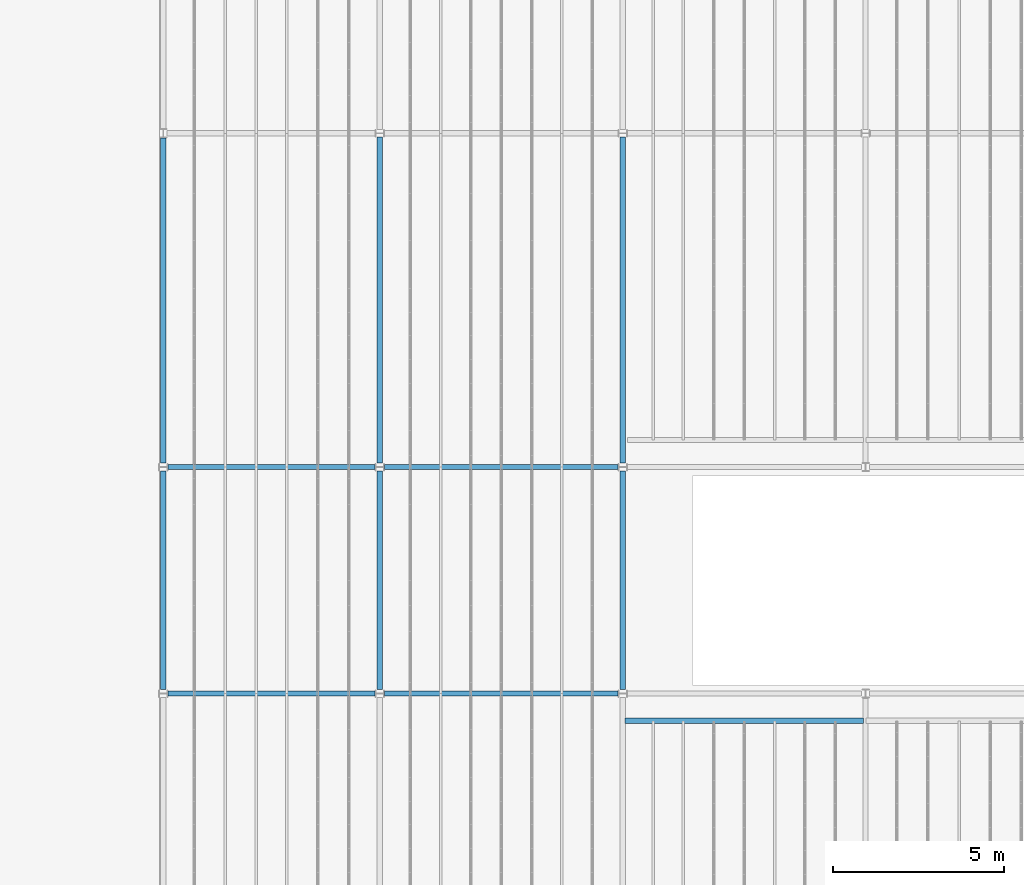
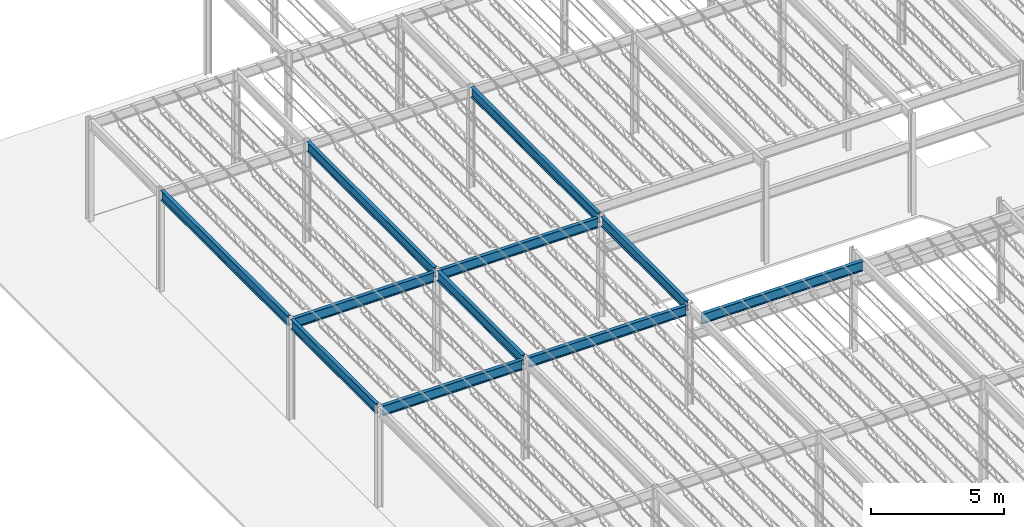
# One storey, part 10 of 119: 11 beams.
"""IFC2X3 building model written with IfcOpenShell, lengths in metres."""

from ifc_helpers import new_model, entity, si_unit, converted_unit, frame, frame_2d, origin, place, context, project, spatial, polyline, circle_curve, parameter, trimmed, segment, composite_curve, outline, extrude, material, element, save


model = new_model("IFC2X3")

# Units and contexts
model_context = context("Model", 3, precision=1e-09, world=origin())
plan_context = context("Plan", 3, precision=1e-09, world=origin())
ifc_project = project(units=[si_unit("LENGTHUNIT", "METRE"), si_unit("AREAUNIT", "SQUARE_METRE"), si_unit("VOLUMEUNIT", "CUBIC_METRE"), converted_unit("PLANEANGLEUNIT", "DEGREE", entity("IfcRatioMeasure", 0.01745329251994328), si_unit("PLANEANGLEUNIT", "RADIAN"), dimensions=[0, 0, 0, 0, 0, 0, 0]), si_unit("TIMEUNIT", "SECOND")], contexts=[model_context, plan_context])

# Site, building, storey
site_placement = place(None, origin())
site = spatial("IfcSite", under=ifc_project, at=site_placement, Name="Default", CompositionType="ELEMENT")
building_placement = place(site_placement, origin())
building = spatial("IfcBuilding", under=site, at=building_placement, CompositionType="ELEMENT")
storey_placement = place(building_placement, frame((0.0, 0.0, 4.570000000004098)))
storey = spatial("IfcBuildingStorey", under=building, at=storey_placement, Name="Second Floor", CompositionType="ELEMENT", Elevation=4.570000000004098)

# Beams
ifc_material = material(Name="Metal - Steel - 345 MPa")
beam_1_placement = place(storey_placement, frame((-33.5526575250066, 35.01000000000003, 4.61649999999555), z_axis=(0.0, 0.0, 1.0), x_axis=(0.0, 1.0, 0.0)))
element("IfcBeam", 1, at=beam_1_placement, inside=storey, material=ifc_material, Name="M_W-Wide Flange:W460X60:W460X60", ObjectType="M_W-Wide Flange:W460X60", context=model_context, shape_type="SweptSolid", body=[
    extrude(outline(composite_curve([segment(polyline([(0.2142000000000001, -0.07650000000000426), (0.2275000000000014, -0.07650000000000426)]), True, "CONTINUOUS"), segment(polyline([(0.2275000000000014, -0.07650000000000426), (0.2275000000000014, 0.0764999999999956)]), True, "CONTINUOUS"), segment(polyline([(0.2275000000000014, 0.0764999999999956), (0.2142000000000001, 0.0764999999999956)]), True, "CONTINUOUS"), segment(polyline([(0.2142000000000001, 0.0764999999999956), (0.2142000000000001, 0.02169999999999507)]), True, "CONTINUOUS"), segment(trimmed(circle_curve(frame_2d((0.1965000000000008, 0.02169999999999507), x_axis=(1.0, 0.0)), 0.0177), [parameter(269.9999999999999)], [parameter(359.9999999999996)], True, "PARAMETER"), False, "CONTINUOUS"), segment(polyline([(0.1965000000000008, 0.00399999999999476), (-0.1964999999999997, 0.00399999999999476)]), True, "CONTINUOUS"), segment(trimmed(circle_curve(frame_2d((-0.1964999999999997, 0.02169999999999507), x_axis=(0.0, -1.0)), 0.0177), [parameter(269.9999999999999)], [parameter(359.9999999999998)], True, "PARAMETER"), False, "CONTINUOUS"), segment(polyline([(-0.2142, 0.02169999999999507), (-0.2142, 0.0764999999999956)]), True, "CONTINUOUS"), segment(polyline([(-0.2142, 0.0764999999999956), (-0.2274999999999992, 0.0764999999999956)]), True, "CONTINUOUS"), segment(polyline([(-0.2274999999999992, 0.0764999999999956), (-0.2274999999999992, -0.07650000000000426)]), True, "CONTINUOUS"), segment(polyline([(-0.2274999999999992, -0.07650000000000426), (-0.2142, -0.07650000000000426)]), True, "CONTINUOUS"), segment(polyline([(-0.2142, -0.07650000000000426), (-0.2142, -0.02170000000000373)]), True, "CONTINUOUS"), segment(trimmed(circle_curve(frame_2d((-0.1964999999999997, -0.02170000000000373), x_axis=(-1.0, 0.0)), 0.0177), [parameter(269.9999999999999)], [parameter(359.9999999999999)], True, "PARAMETER"), False, "CONTINUOUS"), segment(polyline([(-0.1964999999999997, -0.004000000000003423), (0.1965000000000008, -0.004000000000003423)]), True, "CONTINUOUS"), segment(trimmed(circle_curve(frame_2d((0.1965000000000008, -0.02170000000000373), x_axis=(0.0, 1.0)), 0.0177), [parameter(269.9999999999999)], [parameter(5.088887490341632e-14)], True, "PARAMETER"), False, "CONTINUOUS"), segment(polyline([(0.2142000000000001, -0.02170000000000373), (0.2142000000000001, -0.07650000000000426)]), True, "CONTINUOUS")], self_intersect=False)), frame((0.0, 6.966142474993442, -0.2275000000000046), z_axis=(0.0, -1.0, 0.0), x_axis=(0.0, 0.0, -1.0)), (0.0, 0.0, 1.0), 6.827600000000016),
])
beam_2_placement = place(storey_placement, frame((-40.66298019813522, 35.01000000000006, 4.61649999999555), z_axis=(0.0, 0.0, 1.0), x_axis=(0.0, 1.0, 0.0)))
element("IfcBeam", 2, at=beam_2_placement, inside=storey, material=ifc_material, Name="M_W-Wide Flange:W460X60:W460X60", ObjectType="M_W-Wide Flange:W460X60", context=model_context, shape_type="SweptSolid", body=[
    extrude(outline(composite_curve([segment(polyline([(0.2142000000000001, -0.07649999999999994), (0.2275000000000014, -0.07649999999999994)]), True, "CONTINUOUS"), segment(polyline([(0.2275000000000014, -0.07649999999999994), (0.2275000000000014, 0.07649999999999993)]), True, "CONTINUOUS"), segment(polyline([(0.2275000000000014, 0.07649999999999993), (0.2142000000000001, 0.07649999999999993)]), True, "CONTINUOUS"), segment(polyline([(0.2142000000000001, 0.07649999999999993), (0.2142000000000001, 0.0216999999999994)]), True, "CONTINUOUS"), segment(trimmed(circle_curve(frame_2d((0.1965000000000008, 0.0216999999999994), x_axis=(0.0, 1.0)), 0.0177), [parameter(180.0)], [parameter(269.9999999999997)], True, "PARAMETER"), False, "CONTINUOUS"), segment(polyline([(0.1965000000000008, 0.003999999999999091), (-0.1964999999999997, 0.003999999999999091)]), True, "CONTINUOUS"), segment(trimmed(circle_curve(frame_2d((-0.1964999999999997, 0.0216999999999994), x_axis=(0.0, 1.0)), 0.0177), [parameter(90.00000000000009)], [parameter(179.9999999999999)], True, "PARAMETER"), False, "CONTINUOUS"), segment(polyline([(-0.2142, 0.0216999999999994), (-0.2142, 0.07649999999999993)]), True, "CONTINUOUS"), segment(polyline([(-0.2142, 0.07649999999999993), (-0.2274999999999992, 0.07649999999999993)]), True, "CONTINUOUS"), segment(polyline([(-0.2274999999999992, 0.07649999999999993), (-0.2274999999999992, -0.07649999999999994)]), True, "CONTINUOUS"), segment(polyline([(-0.2274999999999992, -0.07649999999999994), (-0.2142, -0.07649999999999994)]), True, "CONTINUOUS"), segment(polyline([(-0.2142, -0.07649999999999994), (-0.2142, -0.0216999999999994)]), True, "CONTINUOUS"), segment(trimmed(circle_curve(frame_2d((-0.1964999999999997, -0.0216999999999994), x_axis=(0.0, 1.0)), 0.0177), [parameter(359.9999999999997)], [parameter(89.99999999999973)], True, "PARAMETER"), False, "CONTINUOUS"), segment(polyline([(-0.1964999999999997, -0.00399999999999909), (0.1965000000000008, -0.00399999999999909)]), True, "CONTINUOUS"), segment(trimmed(circle_curve(frame_2d((0.1965000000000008, -0.0216999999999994), x_axis=(0.0, 1.0)), 0.0177), [parameter(269.9999999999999)], [parameter(0.0)], True, "PARAMETER"), False, "CONTINUOUS"), segment(polyline([(0.2142000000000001, -0.0216999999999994), (0.2142000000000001, -0.07649999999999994)]), True, "CONTINUOUS")], self_intersect=False)), frame((0.0, 6.195819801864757, -0.2275000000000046), z_axis=(0.0, -1.0, 0.0), x_axis=(0.0, 0.0, -1.0)), (0.0, 0.0, 1.0), 6.05759999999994),
])
beam_3_placement = place(storey_placement, frame((-40.66000000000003, 28.38284987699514, 4.679999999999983)))
element("IfcBeam", 3, at=beam_3_placement, inside=storey, material=ifc_material, Name="M_W-Wide Flange:W460X60:W460X60", ObjectType="M_W-Wide Flange:W460X60", context=model_context, shape_type="SweptSolid", body=[
    extrude(outline(composite_curve([segment(polyline([(-0.07649999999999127, -0.214199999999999), (-0.07649999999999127, -0.2275000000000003)]), True, "CONTINUOUS"), segment(polyline([(-0.07649999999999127, -0.2275000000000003), (0.0765000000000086, -0.2275000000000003)]), True, "CONTINUOUS"), segment(polyline([(0.0765000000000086, -0.2275000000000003), (0.0765000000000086, -0.214199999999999)]), True, "CONTINUOUS"), segment(polyline([(0.0765000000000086, -0.214199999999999), (0.02170000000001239, -0.214199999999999)]), True, "CONTINUOUS"), segment(trimmed(circle_curve(frame_2d((0.02170000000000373, -0.1964999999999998), x_axis=(0.0, -1.0)), 0.0177), [parameter(269.9999999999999)], [parameter(359.9999999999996)], True, "PARAMETER"), False, "CONTINUOUS"), segment(polyline([(0.004000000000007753, -0.1964999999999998), (0.004000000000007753, 0.1965000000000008)]), True, "CONTINUOUS"), segment(trimmed(circle_curve(frame_2d((0.02170000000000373, 0.1965000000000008), x_axis=(-1.0, 0.0)), 0.0177), [parameter(269.9999999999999)], [parameter(359.9999999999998)], True, "PARAMETER"), False, "CONTINUOUS"), segment(polyline([(0.02170000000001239, 0.2142000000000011), (0.0765000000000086, 0.2142000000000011)]), True, "CONTINUOUS"), segment(polyline([(0.0765000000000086, 0.2142000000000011), (0.0765000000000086, 0.2275000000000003)]), True, "CONTINUOUS"), segment(polyline([(0.0765000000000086, 0.2275000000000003), (-0.07649999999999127, 0.2275000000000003)]), True, "CONTINUOUS"), segment(polyline([(-0.07649999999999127, 0.2275000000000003), (-0.07649999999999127, 0.2142000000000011)]), True, "CONTINUOUS"), segment(polyline([(-0.07649999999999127, 0.2142000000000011), (-0.02169999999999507, 0.2142000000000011)]), True, "CONTINUOUS"), segment(trimmed(circle_curve(frame_2d((-0.02169999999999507, 0.1965000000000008), x_axis=(0.0, 1.0)), 0.0177), [parameter(269.9999999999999)], [parameter(359.9999999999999)], True, "PARAMETER"), False, "CONTINUOUS"), segment(polyline([(-0.003999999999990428, 0.1965000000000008), (-0.003999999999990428, -0.1964999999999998)]), True, "CONTINUOUS"), segment(trimmed(circle_curve(frame_2d((-0.02169999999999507, -0.1964999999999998), x_axis=(1.0, 0.0)), 0.0177), [parameter(269.9999999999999)], [parameter(5.088887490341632e-14)], True, "PARAMETER"), False, "CONTINUOUS"), segment(polyline([(-0.02169999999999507, -0.214199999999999), (-0.07649999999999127, -0.214199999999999)]), True, "CONTINUOUS")], self_intersect=False)), frame((0.0, 0.1118501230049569, -0.2275000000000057), z_axis=(0.0, -1.0, 0.0), x_axis=(1.0, 0.0, 0.0)), (0.0, 0.0, -1.0), 6.400599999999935),
])
beam_4_placement = place(storey_placement, frame((-40.65734247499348, 28.3800000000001, 4.61649999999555), z_axis=(0.0, 0.0, 1.0), x_axis=(0.0, -1.0, 0.0)))
element("IfcBeam", 4, at=beam_4_placement, inside=storey, material=ifc_material, Name="M_W-Wide Flange:W460X60:W460X60", ObjectType="M_W-Wide Flange:W460X60", context=model_context, shape_type="SweptSolid", body=[
    extrude(outline(composite_curve([segment(polyline([(-0.07649999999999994, -0.2142000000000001), (-0.07649999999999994, -0.2275000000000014)]), True, "CONTINUOUS"), segment(polyline([(-0.07649999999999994, -0.2275000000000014), (0.07649999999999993, -0.2275000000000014)]), True, "CONTINUOUS"), segment(polyline([(0.07649999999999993, -0.2275000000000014), (0.07649999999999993, -0.2142000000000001)]), True, "CONTINUOUS"), segment(polyline([(0.07649999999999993, -0.2142000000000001), (0.0216999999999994, -0.2142000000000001)]), True, "CONTINUOUS"), segment(trimmed(circle_curve(frame_2d((0.02169999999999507, -0.1965000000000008), x_axis=(0.0, -1.0)), 0.0177), [parameter(269.9999999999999)], [parameter(359.9999999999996)], True, "PARAMETER"), False, "CONTINUOUS"), segment(polyline([(0.003999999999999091, -0.1965000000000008), (0.003999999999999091, 0.1964999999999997)]), True, "CONTINUOUS"), segment(trimmed(circle_curve(frame_2d((0.02169999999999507, 0.1964999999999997), x_axis=(-1.0, 0.0)), 0.0177), [parameter(269.9999999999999)], [parameter(359.9999999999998)], True, "PARAMETER"), False, "CONTINUOUS"), segment(polyline([(0.0216999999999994, 0.2142), (0.07649999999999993, 0.2142)]), True, "CONTINUOUS"), segment(polyline([(0.07649999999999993, 0.2142), (0.07649999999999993, 0.2274999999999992)]), True, "CONTINUOUS"), segment(polyline([(0.07649999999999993, 0.2274999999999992), (-0.07649999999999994, 0.2274999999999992)]), True, "CONTINUOUS"), segment(polyline([(-0.07649999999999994, 0.2274999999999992), (-0.07649999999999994, 0.2142)]), True, "CONTINUOUS"), segment(polyline([(-0.07649999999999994, 0.2142), (-0.0216999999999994, 0.2142)]), True, "CONTINUOUS"), segment(trimmed(circle_curve(frame_2d((-0.02170000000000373, 0.1964999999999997), x_axis=(0.0, 1.0)), 0.0177), [parameter(269.9999999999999)], [parameter(359.9999999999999)], True, "PARAMETER"), False, "CONTINUOUS"), segment(polyline([(-0.00399999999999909, 0.1964999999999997), (-0.00399999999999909, -0.1965000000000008)]), True, "CONTINUOUS"), segment(trimmed(circle_curve(frame_2d((-0.02170000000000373, -0.1965000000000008), x_axis=(1.0, 0.0)), 0.0177), [parameter(269.9999999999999)], [parameter(5.088887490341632e-14)], True, "PARAMETER"), False, "CONTINUOUS"), segment(polyline([(-0.0216999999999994, -0.2142000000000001), (-0.07649999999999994, -0.2142000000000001)]), True, "CONTINUOUS")], self_intersect=False)), frame((0.0, 0.138542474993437, -0.2275000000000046), z_axis=(0.0, -1.0, 0.0), x_axis=(1.0, 0.0, 0.0)), (0.0, 0.0, -1.0), 6.827600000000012),
])
beam_5_placement = place(storey_placement, frame((-46.99701980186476, 28.38000000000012, 4.61649999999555), z_axis=(0.0, 0.0, 1.0), x_axis=(0.0, -1.0, 0.0)))
element("IfcBeam", 5, at=beam_5_placement, inside=storey, material=ifc_material, Name="M_W-Wide Flange:W460X60:W460X60", ObjectType="M_W-Wide Flange:W460X60", context=model_context, shape_type="SweptSolid", body=[
    extrude(outline(composite_curve([segment(polyline([(-0.07649999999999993, -0.2142000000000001), (-0.07649999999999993, -0.2275000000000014)]), True, "CONTINUOUS"), segment(polyline([(-0.07649999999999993, -0.2275000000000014), (0.07649999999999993, -0.2275000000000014)]), True, "CONTINUOUS"), segment(polyline([(0.07649999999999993, -0.2275000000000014), (0.07649999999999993, -0.2142000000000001)]), True, "CONTINUOUS"), segment(polyline([(0.07649999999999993, -0.2142000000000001), (0.0216999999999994, -0.2142000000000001)]), True, "CONTINUOUS"), segment(trimmed(circle_curve(frame_2d((0.02169999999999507, -0.1965000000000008), x_axis=(1.0, 0.0)), 0.0177), [parameter(180.0)], [parameter(269.9999999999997)], True, "PARAMETER"), False, "CONTINUOUS"), segment(polyline([(0.003999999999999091, -0.1965000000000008), (0.003999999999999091, 0.1964999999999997)]), True, "CONTINUOUS"), segment(trimmed(circle_curve(frame_2d((0.02169999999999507, 0.1964999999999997), x_axis=(1.0, 0.0)), 0.0177), [parameter(90.00000000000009)], [parameter(179.9999999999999)], True, "PARAMETER"), False, "CONTINUOUS"), segment(polyline([(0.0216999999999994, 0.2142), (0.07649999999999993, 0.2142)]), True, "CONTINUOUS"), segment(polyline([(0.07649999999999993, 0.2142), (0.07649999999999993, 0.2274999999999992)]), True, "CONTINUOUS"), segment(polyline([(0.07649999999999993, 0.2274999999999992), (-0.07649999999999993, 0.2274999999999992)]), True, "CONTINUOUS"), segment(polyline([(-0.07649999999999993, 0.2274999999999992), (-0.07649999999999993, 0.2142)]), True, "CONTINUOUS"), segment(polyline([(-0.07649999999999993, 0.2142), (-0.0216999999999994, 0.2142)]), True, "CONTINUOUS"), segment(trimmed(circle_curve(frame_2d((-0.02170000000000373, 0.1964999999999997), x_axis=(1.0, 0.0)), 0.0177), [parameter(359.9999999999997)], [parameter(89.99999999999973)], True, "PARAMETER"), False, "CONTINUOUS"), segment(polyline([(-0.003999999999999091, 0.1964999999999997), (-0.003999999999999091, -0.1965000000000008)]), True, "CONTINUOUS"), segment(trimmed(circle_curve(frame_2d((-0.02170000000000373, -0.1965000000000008), x_axis=(1.0, 0.0)), 0.0177), [parameter(269.9999999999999)], [parameter(0.0)], True, "PARAMETER"), False, "CONTINUOUS"), segment(polyline([(-0.0216999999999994, -0.2142000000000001), (-0.07649999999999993, -0.2142000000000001)]), True, "CONTINUOUS")], self_intersect=False)), frame((0.0, 0.138219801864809, -0.2275000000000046), z_axis=(0.0, -1.0, 0.0), x_axis=(1.0, 0.0, 0.0)), (0.0, 0.0, -1.0), 6.05759999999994),
])
beam_6_placement = place(storey_placement, frame((-33.55000000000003, 35.00715012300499, 4.679999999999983), z_axis=(0.0, 0.0, 1.0), x_axis=(-1.0, 0.0, 0.0)))
element("IfcBeam", 6, at=beam_6_placement, inside=storey, material=ifc_material, Name="M_W-Wide Flange:W460X60:W460X60", ObjectType="M_W-Wide Flange:W460X60", context=model_context, shape_type="SweptSolid", body=[
    extrude(outline(composite_curve([segment(polyline([(0.2142000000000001, -0.07650000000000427), (0.2275000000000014, -0.07650000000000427)]), True, "CONTINUOUS"), segment(polyline([(0.2275000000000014, -0.07650000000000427), (0.2275000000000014, 0.0764999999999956)]), True, "CONTINUOUS"), segment(polyline([(0.2275000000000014, 0.0764999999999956), (0.2142000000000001, 0.0764999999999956)]), True, "CONTINUOUS"), segment(polyline([(0.2142000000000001, 0.0764999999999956), (0.2142000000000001, 0.02169999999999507)]), True, "CONTINUOUS"), segment(trimmed(circle_curve(frame_2d((0.1965000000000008, 0.02169999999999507), x_axis=(1.0, 0.0)), 0.0177), [parameter(269.9999999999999)], [parameter(359.9999999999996)], True, "PARAMETER"), False, "CONTINUOUS"), segment(polyline([(0.1965000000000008, 0.00399999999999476), (-0.1964999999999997, 0.00399999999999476)]), True, "CONTINUOUS"), segment(trimmed(circle_curve(frame_2d((-0.1964999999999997, 0.02169999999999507), x_axis=(0.0, -1.0)), 0.0177), [parameter(269.9999999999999)], [parameter(359.9999999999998)], True, "PARAMETER"), False, "CONTINUOUS"), segment(polyline([(-0.2142, 0.02169999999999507), (-0.2142, 0.0764999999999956)]), True, "CONTINUOUS"), segment(polyline([(-0.2142, 0.0764999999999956), (-0.2274999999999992, 0.0764999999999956)]), True, "CONTINUOUS"), segment(polyline([(-0.2274999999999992, 0.0764999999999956), (-0.2274999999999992, -0.07650000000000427)]), True, "CONTINUOUS"), segment(polyline([(-0.2274999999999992, -0.07650000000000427), (-0.2142, -0.07650000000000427)]), True, "CONTINUOUS"), segment(polyline([(-0.2142, -0.07650000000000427), (-0.2142, -0.02170000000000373)]), True, "CONTINUOUS"), segment(trimmed(circle_curve(frame_2d((-0.1964999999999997, -0.02170000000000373), x_axis=(-1.0, 0.0)), 0.0177), [parameter(269.9999999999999)], [parameter(359.9999999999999)], True, "PARAMETER"), False, "CONTINUOUS"), segment(polyline([(-0.1964999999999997, -0.004000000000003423), (0.1965000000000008, -0.004000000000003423)]), True, "CONTINUOUS"), segment(trimmed(circle_curve(frame_2d((0.1965000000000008, -0.02170000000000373), x_axis=(0.0, 1.0)), 0.0177), [parameter(269.9999999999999)], [parameter(5.088887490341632e-14)], True, "PARAMETER"), False, "CONTINUOUS"), segment(polyline([(0.2142000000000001, -0.02170000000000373), (0.2142000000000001, -0.07650000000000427)]), True, "CONTINUOUS")], self_intersect=False)), frame((0.0, 6.512450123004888, -0.2275000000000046), z_axis=(0.0, -1.0, 0.0), x_axis=(0.0, 0.0, -1.0)), (0.0, 0.0, 1.0), 6.400599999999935),
])
beam_7_placement = place(storey_placement, frame((-33.55, 44.77806591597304, 4.679999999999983), z_axis=(0.0, 0.0, 1.0), x_axis=(-1.0, 0.0, 0.0)))
element("IfcBeam", 7, at=beam_7_placement, inside=storey, material=ifc_material, Name="M_W-Wide Flange:W460X60:W460X60", ObjectType="M_W-Wide Flange:W460X60", context=model_context, shape_type="SweptSolid", body=[
    extrude(outline(composite_curve([segment(polyline([(0.2142000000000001, -0.07649999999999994), (0.2275000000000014, -0.07649999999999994)]), True, "CONTINUOUS"), segment(polyline([(0.2275000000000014, -0.07649999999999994), (0.2275000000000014, 0.07649999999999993)]), True, "CONTINUOUS"), segment(polyline([(0.2275000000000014, 0.07649999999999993), (0.2142000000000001, 0.07649999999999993)]), True, "CONTINUOUS"), segment(polyline([(0.2142000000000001, 0.07649999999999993), (0.2142000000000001, 0.0216999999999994)]), True, "CONTINUOUS"), segment(trimmed(circle_curve(frame_2d((0.1965000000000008, 0.0216999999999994), x_axis=(1.0, 0.0)), 0.0177), [parameter(269.9999999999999)], [parameter(359.9999999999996)], True, "PARAMETER"), False, "CONTINUOUS"), segment(polyline([(0.1965000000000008, 0.00399999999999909), (-0.1964999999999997, 0.00399999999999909)]), True, "CONTINUOUS"), segment(trimmed(circle_curve(frame_2d((-0.1964999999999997, 0.0216999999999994), x_axis=(0.0, -1.0)), 0.0177), [parameter(269.9999999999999)], [parameter(359.9999999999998)], True, "PARAMETER"), False, "CONTINUOUS"), segment(polyline([(-0.2142, 0.0216999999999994), (-0.2142, 0.07649999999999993)]), True, "CONTINUOUS"), segment(polyline([(-0.2142, 0.07649999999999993), (-0.2274999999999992, 0.07649999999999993)]), True, "CONTINUOUS"), segment(polyline([(-0.2274999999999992, 0.07649999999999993), (-0.2274999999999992, -0.07649999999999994)]), True, "CONTINUOUS"), segment(polyline([(-0.2274999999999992, -0.07649999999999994), (-0.2142, -0.07649999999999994)]), True, "CONTINUOUS"), segment(polyline([(-0.2142, -0.07649999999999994), (-0.2142, -0.0216999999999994)]), True, "CONTINUOUS"), segment(trimmed(circle_curve(frame_2d((-0.1964999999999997, -0.0216999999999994), x_axis=(-1.0, 0.0)), 0.0177), [parameter(269.9999999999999)], [parameter(359.9999999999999)], True, "PARAMETER"), False, "CONTINUOUS"), segment(polyline([(-0.1964999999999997, -0.003999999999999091), (0.1965000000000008, -0.003999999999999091)]), True, "CONTINUOUS"), segment(trimmed(circle_curve(frame_2d((0.1965000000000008, -0.0216999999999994), x_axis=(0.0, 1.0)), 0.0177), [parameter(269.9999999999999)], [parameter(5.088887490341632e-14)], True, "PARAMETER"), False, "CONTINUOUS"), segment(polyline([(0.2142000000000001, -0.0216999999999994), (0.2142000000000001, -0.07649999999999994)]), True, "CONTINUOUS")], self_intersect=False)), frame((0.0, 9.653365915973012, -0.2275000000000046), z_axis=(0.0, -1.0, 0.0), x_axis=(0.0, 0.0, -1.0)), (0.0, 0.0, 1.0), 9.540600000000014),
])
beam_8_placement = place(storey_placement, frame((-47.0, 44.77806591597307, 4.679999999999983), z_axis=(0.0, 0.0, 1.0), x_axis=(-1.0, 0.0, 0.0)))
element("IfcBeam", 8, at=beam_8_placement, inside=storey, material=ifc_material, Name="M_W-Wide Flange:W460X60:W460X60", ObjectType="M_W-Wide Flange:W460X60", context=model_context, shape_type="SweptSolid", body=[
    extrude(outline(composite_curve([segment(polyline([(0.2142000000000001, -0.07649999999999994), (0.2275000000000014, -0.07649999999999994)]), True, "CONTINUOUS"), segment(polyline([(0.2275000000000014, -0.07649999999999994), (0.2275000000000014, 0.07649999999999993)]), True, "CONTINUOUS"), segment(polyline([(0.2275000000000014, 0.07649999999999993), (0.2142000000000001, 0.07649999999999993)]), True, "CONTINUOUS"), segment(polyline([(0.2142000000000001, 0.07649999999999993), (0.2142000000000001, 0.02170000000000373)]), True, "CONTINUOUS"), segment(trimmed(circle_curve(frame_2d((0.1965000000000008, 0.02170000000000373), x_axis=(1.0, 0.0)), 0.0177), [parameter(269.9999999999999)], [parameter(359.9999999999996)], True, "PARAMETER"), False, "CONTINUOUS"), segment(polyline([(0.1965000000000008, 0.00399999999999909), (-0.1964999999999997, 0.00399999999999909)]), True, "CONTINUOUS"), segment(trimmed(circle_curve(frame_2d((-0.1964999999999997, 0.02170000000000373), x_axis=(0.0, -1.0)), 0.0177), [parameter(269.9999999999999)], [parameter(359.9999999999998)], True, "PARAMETER"), False, "CONTINUOUS"), segment(polyline([(-0.2142, 0.02170000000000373), (-0.2142, 0.07649999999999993)]), True, "CONTINUOUS"), segment(polyline([(-0.2142, 0.07649999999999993), (-0.2274999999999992, 0.07649999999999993)]), True, "CONTINUOUS"), segment(polyline([(-0.2274999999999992, 0.07649999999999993), (-0.2274999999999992, -0.07649999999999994)]), True, "CONTINUOUS"), segment(polyline([(-0.2274999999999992, -0.07649999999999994), (-0.2142, -0.07649999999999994)]), True, "CONTINUOUS"), segment(polyline([(-0.2142, -0.07649999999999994), (-0.2142, -0.02170000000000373)]), True, "CONTINUOUS"), segment(trimmed(circle_curve(frame_2d((-0.1964999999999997, -0.02169999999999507), x_axis=(-1.0, 0.0)), 0.0177), [parameter(269.9999999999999)], [parameter(359.9999999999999)], True, "PARAMETER"), False, "CONTINUOUS"), segment(polyline([(-0.1964999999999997, -0.003999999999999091), (0.1965000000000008, -0.003999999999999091)]), True, "CONTINUOUS"), segment(trimmed(circle_curve(frame_2d((0.1965000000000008, -0.02169999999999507), x_axis=(0.0, 1.0)), 0.0177), [parameter(269.9999999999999)], [parameter(5.088887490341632e-14)], True, "PARAMETER"), False, "CONTINUOUS"), segment(polyline([(0.2142000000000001, -0.02170000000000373), (0.2142000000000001, -0.07649999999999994)]), True, "CONTINUOUS")], self_intersect=False)), frame((0.0, 9.653365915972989, -0.2275000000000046), z_axis=(0.0, -1.0, 0.0), x_axis=(0.0, 0.0, -1.0)), (0.0, 0.0, 1.0), 9.51409999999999),
])
beam_9_placement = place(storey_placement, frame((-47.0, 35.00715012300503, 4.679999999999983), z_axis=(0.0, 0.0, 1.0), x_axis=(-1.0, 0.0, 0.0)))
element("IfcBeam", 9, at=beam_9_placement, inside=storey, material=ifc_material, Name="M_W-Wide Flange:W460X60:W460X60", ObjectType="M_W-Wide Flange:W460X60", context=model_context, shape_type="SweptSolid", body=[
    extrude(outline(composite_curve([segment(polyline([(0.2142000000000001, -0.07649999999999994), (0.2275000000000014, -0.07649999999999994)]), True, "CONTINUOUS"), segment(polyline([(0.2275000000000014, -0.07649999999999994), (0.2275000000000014, 0.07649999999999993)]), True, "CONTINUOUS"), segment(polyline([(0.2275000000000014, 0.07649999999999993), (0.2142000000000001, 0.07649999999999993)]), True, "CONTINUOUS"), segment(polyline([(0.2142000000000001, 0.07649999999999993), (0.2142000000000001, 0.02170000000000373)]), True, "CONTINUOUS"), segment(trimmed(circle_curve(frame_2d((0.1965000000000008, 0.02170000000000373), x_axis=(1.0, 0.0)), 0.0177), [parameter(269.9999999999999)], [parameter(359.9999999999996)], True, "PARAMETER"), False, "CONTINUOUS"), segment(polyline([(0.1965000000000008, 0.003999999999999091), (-0.1964999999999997, 0.003999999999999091)]), True, "CONTINUOUS"), segment(trimmed(circle_curve(frame_2d((-0.1964999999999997, 0.02170000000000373), x_axis=(0.0, -1.0)), 0.0177), [parameter(269.9999999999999)], [parameter(359.9999999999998)], True, "PARAMETER"), False, "CONTINUOUS"), segment(polyline([(-0.2142, 0.02170000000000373), (-0.2142, 0.07649999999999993)]), True, "CONTINUOUS"), segment(polyline([(-0.2142, 0.07649999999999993), (-0.2274999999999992, 0.07649999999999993)]), True, "CONTINUOUS"), segment(polyline([(-0.2274999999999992, 0.07649999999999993), (-0.2274999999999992, -0.07649999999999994)]), True, "CONTINUOUS"), segment(polyline([(-0.2274999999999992, -0.07649999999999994), (-0.2142, -0.07649999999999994)]), True, "CONTINUOUS"), segment(polyline([(-0.2142, -0.07649999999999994), (-0.2142, -0.02170000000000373)]), True, "CONTINUOUS"), segment(trimmed(circle_curve(frame_2d((-0.1964999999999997, -0.02169999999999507), x_axis=(-1.0, 0.0)), 0.0177), [parameter(269.9999999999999)], [parameter(359.9999999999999)], True, "PARAMETER"), False, "CONTINUOUS"), segment(polyline([(-0.1964999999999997, -0.00399999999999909), (0.1965000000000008, -0.00399999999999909)]), True, "CONTINUOUS"), segment(trimmed(circle_curve(frame_2d((0.1965000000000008, -0.02169999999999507), x_axis=(0.0, 1.0)), 0.0177), [parameter(269.9999999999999)], [parameter(5.088887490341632e-14)], True, "PARAMETER"), False, "CONTINUOUS"), segment(polyline([(0.2142000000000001, -0.02170000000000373), (0.2142000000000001, -0.07649999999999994)]), True, "CONTINUOUS")], self_intersect=False)), frame((0.0, 6.512450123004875, -0.2275000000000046), z_axis=(0.0, -1.0, 0.0), x_axis=(0.0, 0.0, -1.0)), (0.0, 0.0, 1.0), 6.400599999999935),
])
beam_10_placement = place(storey_placement, frame((-40.66000000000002, 35.01193408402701, 4.679999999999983)))
element("IfcBeam", 10, at=beam_10_placement, inside=storey, material=ifc_material, Name="M_W-Wide Flange:W460X60:W460X60", ObjectType="M_W-Wide Flange:W460X60", context=model_context, shape_type="SweptSolid", body=[
    extrude(outline(composite_curve([segment(polyline([(-0.07650000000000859, -0.214199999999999), (-0.07650000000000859, -0.2275000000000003)]), True, "CONTINUOUS"), segment(polyline([(-0.07650000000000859, -0.2275000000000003), (0.07649999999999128, -0.2275000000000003)]), True, "CONTINUOUS"), segment(polyline([(0.07649999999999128, -0.2275000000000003), (0.07649999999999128, -0.214199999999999)]), True, "CONTINUOUS"), segment(polyline([(0.07649999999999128, -0.214199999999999), (0.02169999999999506, -0.214199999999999)]), True, "CONTINUOUS"), segment(trimmed(circle_curve(frame_2d((0.02169999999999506, -0.1964999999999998), x_axis=(0.0, -1.0)), 0.0177), [parameter(269.9999999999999)], [parameter(359.9999999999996)], True, "PARAMETER"), False, "CONTINUOUS"), segment(polyline([(0.003999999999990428, -0.1964999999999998), (0.003999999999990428, 0.1965000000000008)]), True, "CONTINUOUS"), segment(trimmed(circle_curve(frame_2d((0.02169999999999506, 0.1965000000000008), x_axis=(-1.0, 0.0)), 0.0177), [parameter(269.9999999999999)], [parameter(359.9999999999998)], True, "PARAMETER"), False, "CONTINUOUS"), segment(polyline([(0.02169999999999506, 0.2142000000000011), (0.07649999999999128, 0.2142000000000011)]), True, "CONTINUOUS"), segment(polyline([(0.07649999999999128, 0.2142000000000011), (0.07649999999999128, 0.2275000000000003)]), True, "CONTINUOUS"), segment(polyline([(0.07649999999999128, 0.2275000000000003), (-0.07650000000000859, 0.2275000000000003)]), True, "CONTINUOUS"), segment(polyline([(-0.07650000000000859, 0.2275000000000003), (-0.07650000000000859, 0.2142000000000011)]), True, "CONTINUOUS"), segment(polyline([(-0.07650000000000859, 0.2142000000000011), (-0.02170000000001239, 0.2142000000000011)]), True, "CONTINUOUS"), segment(trimmed(circle_curve(frame_2d((-0.02170000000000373, 0.1965000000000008), x_axis=(0.0, 1.0)), 0.0177), [parameter(269.9999999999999)], [parameter(359.9999999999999)], True, "PARAMETER"), False, "CONTINUOUS"), segment(polyline([(-0.004000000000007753, 0.1965000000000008), (-0.004000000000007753, -0.1964999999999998)]), True, "CONTINUOUS"), segment(trimmed(circle_curve(frame_2d((-0.02170000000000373, -0.1964999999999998), x_axis=(1.0, 0.0)), 0.0177), [parameter(269.9999999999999)], [parameter(5.088887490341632e-14)], True, "PARAMETER"), False, "CONTINUOUS"), segment(polyline([(-0.02170000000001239, -0.214199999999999), (-0.07650000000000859, -0.214199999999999)]), True, "CONTINUOUS")], self_intersect=False)), frame((0.0, 0.1127659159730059, -0.2275000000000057), z_axis=(0.0, -1.0, 0.0), x_axis=(1.0, 0.0, 0.0)), (0.0, 0.0, -1.0), 9.540600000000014),
])
beam_11_placement = place(storey_placement, frame((-26.44028395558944, 27.58500000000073, 4.616499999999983), z_axis=(0.0, 0.0, 1.0), x_axis=(0.0, 1.0, 0.0)))
element("IfcBeam", 11, at=beam_11_placement, inside=storey, material=ifc_material, Name="M_W-Wide Flange:W460X60:W460X60", ObjectType="M_W-Wide Flange:W460X60", context=model_context, shape_type="SweptSolid", body=[
    extrude(outline(composite_curve([segment(polyline([(-0.07649999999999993, -0.214199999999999), (-0.07649999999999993, -0.2275000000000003)]), True, "CONTINUOUS"), segment(polyline([(-0.07649999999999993, -0.2275000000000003), (0.07649999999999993, -0.2275000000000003)]), True, "CONTINUOUS"), segment(polyline([(0.07649999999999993, -0.2275000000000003), (0.07649999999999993, -0.214199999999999)]), True, "CONTINUOUS"), segment(polyline([(0.07649999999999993, -0.214199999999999), (0.0216999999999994, -0.214199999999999)]), True, "CONTINUOUS"), segment(trimmed(circle_curve(frame_2d((0.0216999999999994, -0.1964999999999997), x_axis=(1.0, 0.0)), 0.0177), [parameter(180.0)], [parameter(269.9999999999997)], True, "PARAMETER"), False, "CONTINUOUS"), segment(polyline([(0.003999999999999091, -0.1964999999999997), (0.003999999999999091, 0.1965000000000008)]), True, "CONTINUOUS"), segment(trimmed(circle_curve(frame_2d((0.0216999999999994, 0.1965000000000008), x_axis=(1.0, 0.0)), 0.0177), [parameter(90.00000000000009)], [parameter(179.9999999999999)], True, "PARAMETER"), False, "CONTINUOUS"), segment(polyline([(0.0216999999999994, 0.2142000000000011), (0.07649999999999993, 0.2142000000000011)]), True, "CONTINUOUS"), segment(polyline([(0.07649999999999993, 0.2142000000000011), (0.07649999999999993, 0.2275000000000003)]), True, "CONTINUOUS"), segment(polyline([(0.07649999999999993, 0.2275000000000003), (-0.07649999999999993, 0.2275000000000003)]), True, "CONTINUOUS"), segment(polyline([(-0.07649999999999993, 0.2275000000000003), (-0.07649999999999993, 0.2142000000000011)]), True, "CONTINUOUS"), segment(polyline([(-0.07649999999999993, 0.2142000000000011), (-0.0216999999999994, 0.2142000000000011)]), True, "CONTINUOUS"), segment(trimmed(circle_curve(frame_2d((-0.0216999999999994, 0.1965000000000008), x_axis=(1.0, 0.0)), 0.0177), [parameter(359.9999999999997)], [parameter(89.99999999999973)], True, "PARAMETER"), False, "CONTINUOUS"), segment(polyline([(-0.003999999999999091, 0.1965000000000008), (-0.003999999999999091, -0.1964999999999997)]), True, "CONTINUOUS"), segment(trimmed(circle_curve(frame_2d((-0.0216999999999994, -0.1964999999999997), x_axis=(1.0, 0.0)), 0.0177), [parameter(269.9999999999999)], [parameter(0.0)], True, "PARAMETER"), False, "CONTINUOUS"), segment(polyline([(-0.0216999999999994, -0.214199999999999), (-0.07649999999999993, -0.214199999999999)]), True, "CONTINUOUS")], self_intersect=False)), frame((0.0, 7.048916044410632, -0.2275000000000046), z_axis=(0.0, 1.0, 0.0), x_axis=(-1.0, 0.0, 0.0)), (0.0, 0.0, -1.0), 6.985699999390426),
])

save(model, "model.ifc")
